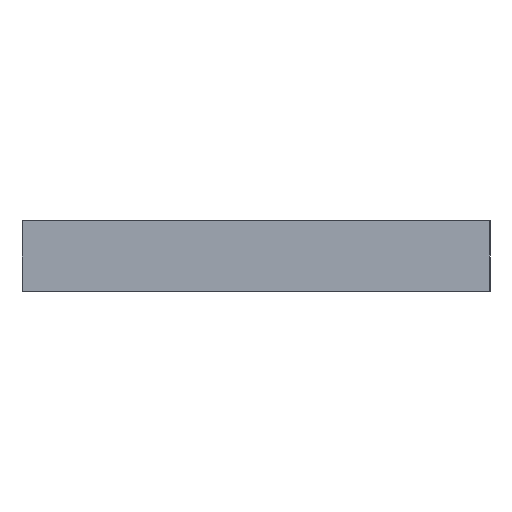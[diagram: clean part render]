
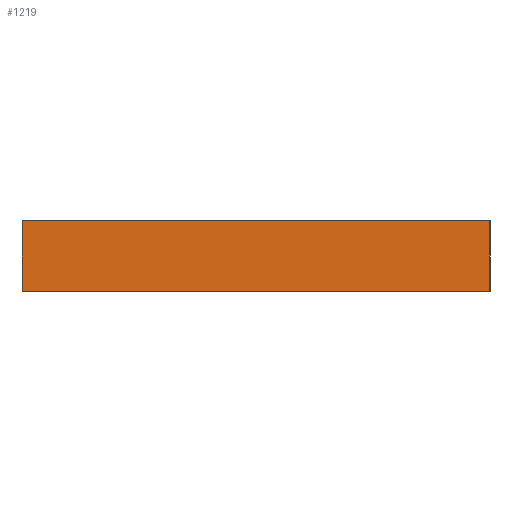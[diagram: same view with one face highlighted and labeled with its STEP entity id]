
A CAD part, left-side view. The second image highlights one B-rep face of the part: STEP entity #1219.
In plain terms, the highlighted planar face has unit normal (-1, 0, 0).
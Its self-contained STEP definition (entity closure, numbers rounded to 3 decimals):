
#89=FACE_OUTER_BOUND('',#159,.T.);
#159=EDGE_LOOP('',(#1001,#1002,#1003,#1004));
#303=LINE('',#1886,#463);
#307=LINE('',#1895,#467);
#308=LINE('',#1896,#468);
#309=LINE('',#1897,#469);
#463=VECTOR('',#1549,10.);
#467=VECTOR('',#1555,10.);
#468=VECTOR('',#1556,10.);
#469=VECTOR('',#1557,10.);
#587=VERTEX_POINT('',#1884);
#588=VERTEX_POINT('',#1885);
#591=VERTEX_POINT('',#1893);
#592=VERTEX_POINT('',#1894);
#743=EDGE_CURVE('',#587,#588,#303,.T.);
#747=EDGE_CURVE('',#591,#592,#307,.T.);
#748=EDGE_CURVE('',#588,#591,#308,.T.);
#749=EDGE_CURVE('',#592,#587,#309,.T.);
#1001=ORIENTED_EDGE('',*,*,#747,.F.);
#1002=ORIENTED_EDGE('',*,*,#748,.F.);
#1003=ORIENTED_EDGE('',*,*,#743,.F.);
#1004=ORIENTED_EDGE('',*,*,#749,.F.);
#1157=PLANE('',#1291);
#1219=ADVANCED_FACE('',(#89),#1157,.T.);
#1291=AXIS2_PLACEMENT_3D('',#1892,#1553,#1554);
#1549=DIRECTION('',(0.,1.,0.));
#1553=DIRECTION('center_axis',(-1.,0.,0.));
#1554=DIRECTION('ref_axis',(0.,0.,1.));
#1555=DIRECTION('',(0.,-1.,0.));
#1556=DIRECTION('',(0.,0.,1.));
#1557=DIRECTION('',(0.,0.,-1.));
#1884=CARTESIAN_POINT('',(-25.,-20.,-3.));
#1885=CARTESIAN_POINT('',(-25.,0.,-3.));
#1886=CARTESIAN_POINT('',(-25.,-5.,-3.));
#1892=CARTESIAN_POINT('Origin',(-25.,-10.,-1.5));
#1893=CARTESIAN_POINT('',(-25.,0.,0.));
#1894=CARTESIAN_POINT('',(-25.,-20.,0.));
#1895=CARTESIAN_POINT('',(-25.,-15.,0.));
#1896=CARTESIAN_POINT('',(-25.,0.,-0.75));
#1897=CARTESIAN_POINT('',(-25.,-20.,-2.25));
